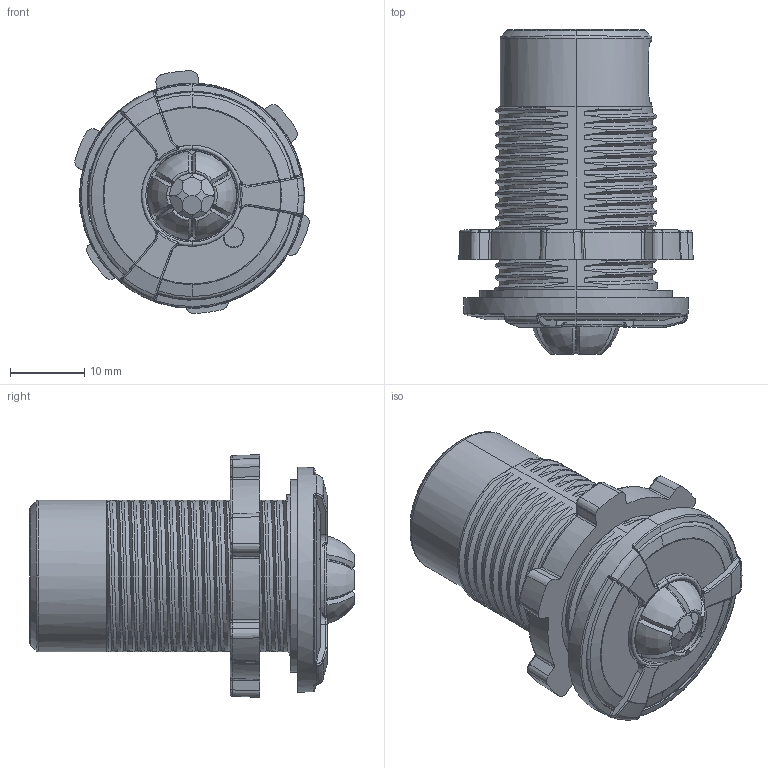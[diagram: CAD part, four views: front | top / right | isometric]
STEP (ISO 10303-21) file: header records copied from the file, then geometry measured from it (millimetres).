
FILE_DESCRIPTION (( 'STEP AP203' ), '1' );
FILE_NAME ('RA231JA8_dfm_R2_20210205.STEP', '2021-02-05T10:40:09', ( '' ), ( '' ), 'SwSTEP 2.0', 'SolidWorks 2013', '' );
FILE_SCHEMA (( 'CONFIG_CONTROL_DESIGN' ));
Length unit declared in the file: millimetre
Products named in the file (18): PIR_PCBA_ID_R9-201123_1-173810; SMD_LED_1-833120; PANASONIC_PIR_LENS-164660; RA231JA8-6__X2_5C0E51499-825910; LED_PCB_R9_201123-64920; RA231JA8-4__X2_5C0E51496-626750; ra231ja8-1; RA231JA8-3___X2_976284CB_X0_; SC59-3-x; RA231HA8-7__X2_59297DDA_-318180; WAGO_250-204_2P-1039440; RA231JA8_dfm_R2_20210205; RA231HA8-2_CAP2-20201109-308970; SPONGE; R9_HST-M52832QFAA_BLE-218600; RA231JA8-5__X2_906E7247_X0__R9_; POWER_PCB_R9-187420; SMD_LED-829590
Assembly tree (18 placements, depth 2):
  RA231JA8_dfm_R2_20210205
    WAGO_250-204_2P-1039440
    SPONGE
    RA231JA8-5__X2_906E7247_X0__R9_
    SMD_LED-829590  x2
    SMD_LED_1-833120
    RA231JA8-6__X2_5C0E51499-825910
    RA231JA8-4__X2_5C0E51496-626750
    RA231JA8-3___X2_976284CB_X0_
    RA231HA8-7__X2_59297DDA_-318180
    RA231HA8-2_CAP2-20201109-308970
    R9_HST-M52832QFAA_BLE-218600
    POWER_PCB_R9-187420
    PIR_PCBA_ID_R9-201123_1-173810
    PANASONIC_PIR_LENS-164660
    LED_PCB_R9_201123-64920
    ra231ja8-1
    SC59-3-x
Bounding box: 31.49 x 43.65 x 32.6 mm (x, y, z)
Volume: 9440.1 mm3; surface area: 15547.9 mm2
Topology: 19 solids, 19 shells, 1523 faces, 4295 edges, 2812 vertices
Faces by surface type: plane 573, bspline 444, cylinder 319, cone 187
Entity records: 90297 total; most frequent: CARTESIAN_POINT 54537, ORIENTED_EDGE 8508, DIRECTION 4858, EDGE_CURVE 4254, VERTEX_POINT 2800, B_SPLINE_CURVE_WITH_KNOTS 2111, AXIS2_PLACEMENT_3D 1704, EDGE_LOOP 1574
